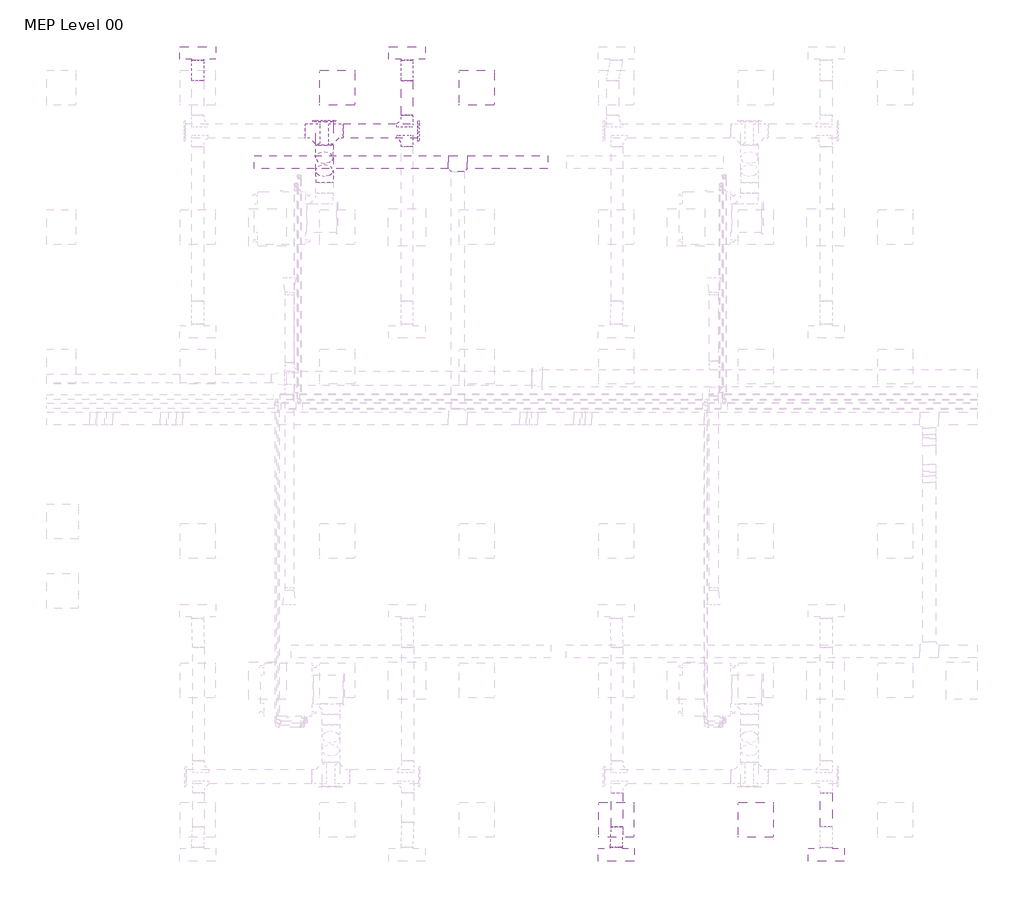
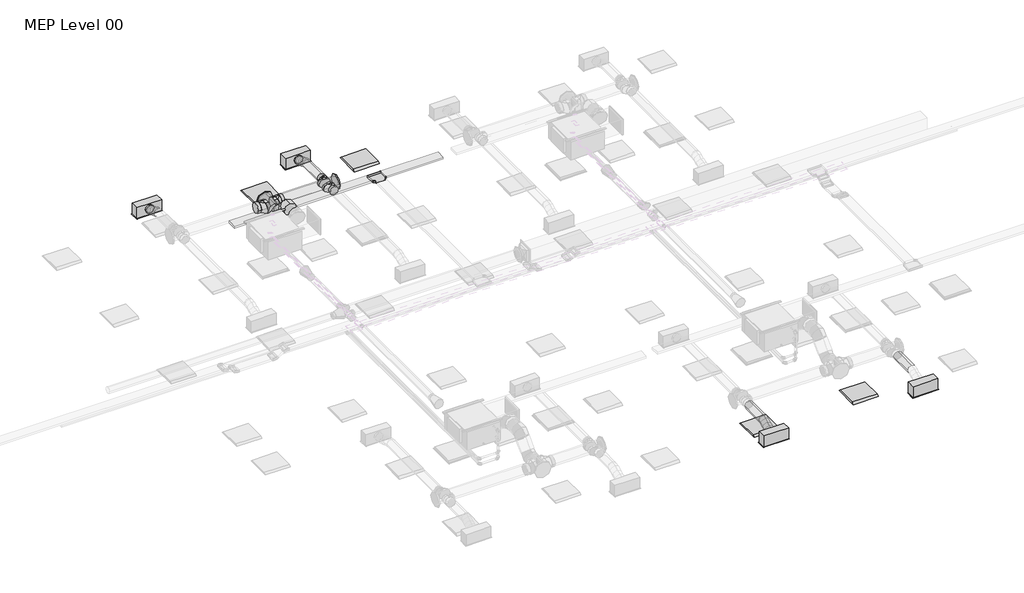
# One storey, part 7 of 33: 9 duct segments, 8 duct fittings, 4 air terminals, 4 light fixtures, 2 cable carrier segments, 1 cable carrier fitting.
"""IFC4 building model written with IfcOpenShell, lengths in millimetres."""

from ifc_helpers import new_model, si_unit, point, frame, frame_2d, origin, place, context, project, spatial, polyline, circle_curve, ellipse_curve, trimmed, segment, composite_curve, outline, extrude, transform, mapped, element, save
from ifc_brep_helpers import plane_surface, cylinder_surface, advanced_brep
from components import supply_diffuser_with_plenum_linear_slot_hosted_8c379eed, cable_tray_horizontal_tee_standard_d76b5e15, dw144_round_blank_end_standard_e3d0b58b, dw144_round_blank_end_standard_8c6f93a0, dw144_round_segmented_bend_slip_joint_standard_2e4ef361, dw144_round_shoe_branch_slip_joint_standard_0dbb398a, dw144_round_shoe_branch_slip_joint_standard_15a2edd8, light_fixture_600x600_230_1c7c1157

model = new_model("IFC4")

# Units and contexts
model_context = context("Model", 3, world=origin())
ifc_project = project(units=[si_unit("LENGTHUNIT", "METRE", prefix="MILLI")], contexts=[model_context])

# Site, building, storey
site = spatial("IfcSite", under=ifc_project)
building = spatial("IfcBuilding", under=site)
storey = spatial("IfcBuildingStorey", under=building, Name="MEP Level 00", Elevation=0.0)

# Air terminals
placement = place(None, origin())
supply_diffuser_with_plenum_linear_slot_hosted_shape = supply_diffuser_with_plenum_linear_slot_hosted_8c379eed(model_context)
element("IfcAirTerminal", 1, ObjectType="Supply Diffuser with Plenum - Linear Slot - Hosted : 600mmx193.8mm-200 In Inlet  4-Slot", at=placement, inside=storey, context=model_context, shape_type="MappedRepresentation", body=[
    mapped(supply_diffuser_with_plenum_linear_slot_hosted_shape, transform((16362.2000027, 963.2000004, 2800.0), x_axis=(1.0, 0.0, 0.0), y_axis=(0.0, -1.0, 0.0), z_axis=(0.0, 0.0, -1.0))),
])
element("IfcAirTerminal", 2, ObjectType="Supply Diffuser with Plenum - Linear Slot - Hosted : 600mmx193.8mm-200 In Inlet  4-Slot", at=placement, inside=storey, context=model_context, shape_type="MappedRepresentation", body=[
    mapped(supply_diffuser_with_plenum_linear_slot_hosted_shape, transform((19973.9000022, 963.2000004, 2800.0), x_axis=(1.0, 0.0, 0.0), y_axis=(0.0, -1.0, 0.0), z_axis=(0.0, 0.0, -1.0))),
])
element("IfcAirTerminal", 3, ObjectType="Supply Diffuser with Plenum - Linear Slot - Hosted : 600mmx193.8mm-200 In Inlet  4-Slot", at=placement, inside=storey, context=model_context, shape_type="MappedRepresentation", body=[
    mapped(supply_diffuser_with_plenum_linear_slot_hosted_shape, transform((9162.2000027, 14763.2000004, 2800.0), x_axis=(-1.0, 0.0, 0.0), y_axis=(0.0, 1.0, 0.0), z_axis=(0.0, 0.0, -1.0))),
])
element("IfcAirTerminal", 4, ObjectType="Supply Diffuser with Plenum - Linear Slot - Hosted : 600mmx193.8mm-200 In Inlet  4-Slot", at=placement, inside=storey, context=model_context, shape_type="MappedRepresentation", body=[
    mapped(supply_diffuser_with_plenum_linear_slot_hosted_shape, transform((12762.2000027, 14763.2000004, 2800.0), x_axis=(-1.0, 0.0, 0.0), y_axis=(0.0, 1.0, 0.0), z_axis=(0.0, 0.0, -1.0))),
])

# Cable carrier fitting
cable_tray_horizontal_tee_standard_shape = cable_tray_horizontal_tee_standard_d76b5e15(model_context)
element("IfcCableCarrierFitting", 5, ObjectType="Cable Tray Horizontal Tee : Standard", at=placement, inside=storey, context=model_context, shape_type="MappedRepresentation", body=[
    mapped(cable_tray_horizontal_tee_standard_shape, transform((13637.1604219, 12884.9103775, 3275.0), x_axis=(1.0, 0.0, 0.0), y_axis=(0.0, 1.0, 0.0), z_axis=(0.0, 0.0, 1.0))),
])

# Cable carrier segments
element("IfcCableCarrierSegment", 6, ObjectType="Perforated Cable Tray", at=placement, inside=storey, context=model_context, shape_type="SweptSolid", body=[
    extrude(outline(polyline([(13474.6604219, 12997.4103775), (13474.6604219, 12772.4103775), (10137.1604219, 12772.4103775), (10137.1604219, 12997.4103775), (13474.6604219, 12997.4103775)])), frame((0.0, 0.0, 3250.0), z_axis=(0.0, 0.0, 1.0), x_axis=(1.0, 0.0, 0.0)), (0.0, 0.0, 1.0), 50.0),
])
element("IfcCableCarrierSegment", 7, ObjectType="Perforated Cable Tray", at=placement, inside=storey, context=model_context, shape_type="SweptSolid", body=[
    extrude(outline(polyline([(13799.6604219, 12772.4103775), (13799.6604219, 12997.4103775), (15186.6514471, 12997.4103775), (15186.6514471, 12772.4103775), (13799.6604219, 12772.4103775)])), frame((0.0, 0.0, 3250.0), z_axis=(0.0, 0.0, 1.0), x_axis=(1.0, 0.0, 0.0)), (0.0, 0.0, 1.0), 50.0),
])

# Duct fittings
dw144_round_blank_end_standard_shape = dw144_round_blank_end_standard_e3d0b58b(model_context)
element("IfcDuctFitting", 8, ObjectType="DW144 Round Blank End : Standard", at=placement, inside=storey, context=model_context, shape_type="MappedRepresentation", body=[
    mapped(dw144_round_blank_end_standard_shape, transform((12949.7561029, 13419.8981817, 3072.2088531), x_axis=(1.0, 0.0, 0.0), y_axis=(0.0, 1.0, 0.0), z_axis=(0.0, 0.0, 1.0))),
])
dw144_round_blank_end_standard_2_shape = dw144_round_blank_end_standard_8c6f93a0(model_context)
element("IfcDuctFitting", 9, ObjectType="DW144 Round Blank End : Standard", at=placement, inside=storey, context=model_context, shape_type="MappedRepresentation", body=[
    mapped(dw144_round_blank_end_standard_2_shape, transform((11339.7561029, 13583.4083881, 3072.2088531), x_axis=(0.0, 1.0, 0.0), y_axis=(-1.0, 0.0, 0.0), z_axis=(0.0, 0.0, 1.0))),
])
dw144_round_segmented_bend_slip_joint_standard_shape = dw144_round_segmented_bend_slip_joint_standard_2e4ef361(model_context)
element("IfcDuctFitting", 10, ObjectType="DW144 Round Segmented Bend - Slip Joint : Standard", at=placement, inside=storey, context=model_context, shape_type="MappedRepresentation", body=[
    mapped(dw144_round_segmented_bend_slip_joint_standard_shape, transform((11339.7561029, 13047.7661473, 3072.2088531), x_axis=(0.0, 0.7071067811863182, -0.7071067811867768), y_axis=(0.0, 0.7071067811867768, 0.7071067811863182), z_axis=(1.0, 0.0, 0.0))),
])
element("IfcDuctFitting", 11, ObjectType="DW144 Round Segmented Bend - Slip Joint : Standard", at=placement, inside=storey, context=model_context, shape_type="MappedRepresentation", body=[
    mapped(dw144_round_segmented_bend_slip_joint_standard_shape, transform((11339.7561029, 12650.4000004, 3469.575), x_axis=(0.0, 1.0, 0.0), y_axis=(0.0, 0.0, -1.0), z_axis=(-1.0, 0.0, 0.0))),
])
dw144_round_shoe_branch_slip_joint_standard_shape = dw144_round_shoe_branch_slip_joint_standard_0dbb398a(model_context)
element("IfcDuctFitting", 12, ObjectType="DW144 Round Shoe Branch - Slip Joint : Standard", at=placement, inside=storey, context=model_context, shape_type="MappedRepresentation", body=[
    mapped(dw144_round_shoe_branch_slip_joint_standard_shape, transform((11489.7561029, 13419.8981817, 3072.2088531), x_axis=(1.0, 0.0, 0.0), y_axis=(0.0, -1.0, 0.0), z_axis=(0.0, 0.0, -1.0))),
])
element("IfcDuctFitting", 13, ObjectType="DW144 Round Shoe Branch - Slip Joint : Standard", at=placement, inside=storey, context=model_context, shape_type="MappedRepresentation", body=[
    mapped(dw144_round_shoe_branch_slip_joint_standard_shape, transform((11189.7561029, 13419.8981817, 3072.2088531), x_axis=(-1.0, 0.0, 0.0), y_axis=(0.0, -1.0, 0.0), z_axis=(0.0, 0.0, 1.0))),
])
dw144_round_shoe_branch_slip_joint_standard_2_shape = dw144_round_shoe_branch_slip_joint_standard_15a2edd8(model_context)
element("IfcDuctFitting", 14, ObjectType="DW144 Round Shoe Branch - Slip Joint : Standard", at=placement, inside=storey, context=model_context, shape_type="MappedRepresentation", body=[
    mapped(dw144_round_shoe_branch_slip_joint_standard_2_shape, transform((12762.2000027, 13544.8981817, 3072.2088531), x_axis=(0.0, 1.0, 0.0), y_axis=(1.0, 0.0, 0.0), z_axis=(0.0, 0.0, -1.0))),
])
element("IfcDuctFitting", 15, ObjectType="DW144 Round Shoe Branch - Slip Joint : Standard", at=placement, inside=storey, context=model_context, shape_type="MappedRepresentation", body=[
    mapped(dw144_round_shoe_branch_slip_joint_standard_2_shape, transform((12762.2000027, 13294.8981817, 3072.2088531), x_axis=(0.0, -1.0, 0.0), y_axis=(1.0, 0.0, 0.0), z_axis=(0.0, 0.0, 1.0))),
])

# Duct segments
element("IfcDuctSegment", 16, ObjectType="DW144 Segmented Bend / Shoe Branch", at=placement, inside=storey, context=model_context, shape_type="SweptSolid", body=[
    extrude(outline(composite_curve([segment(trimmed(circle_curve(frame_2d((3072.2088531, 11339.7561029)), 150.0), [point((3072.2088531, 11489.7561029))], [point((3222.2088531, 11339.7561029))], False, "CARTESIAN"), True, "CONTINUOUS"), segment(trimmed(circle_curve(frame_2d((3072.2088531, 11339.7561029)), 150.0), [point((3222.2088531, 11339.7561029))], [point((3072.2088531, 11189.7561029))], False, "CARTESIAN"), True, "CONTINUOUS"), segment(trimmed(circle_curve(frame_2d((3072.2088531, 11339.7561029)), 150.0), [point((3072.2088531, 11189.7561029))], [point((2922.2088531, 11339.7561029))], False, "CARTESIAN"), True, "CONTINUOUS"), segment(trimmed(circle_curve(frame_2d((3072.2088531, 11339.7561029)), 150.0), [point((2922.2088531, 11339.7561029))], [point((3072.2088531, 11489.7561029))], False, "CARTESIAN"), True, "CONTINUOUS")], self_intersect=False)), frame((0.0, 13172.030216, 0.0), z_axis=(0.0, 1.0, 0.0), x_axis=(0.0, 0.0, 1.0)), (0.0, 0.0, 1.0), 411.3781721),
])
element("IfcDuctSegment", 17, ObjectType="DW144 Segmented Bend / Shoe Branch", at=placement, inside=storey, context=model_context, shape_type="SweptSolid", body=[
    extrude(outline(composite_curve([segment(trimmed(circle_curve(frame_2d((0.0, -149.9999999)), 150.0), [point((150.0, -149.9999999))], [point((0.0, -299.9999999))], False, "CARTESIAN"), True, "CONTINUOUS"), segment(trimmed(circle_curve(frame_2d((0.0, -149.9999999)), 150.0), [point((0.0, -299.9999999))], [point((-150.0, -149.9999999))], False, "CARTESIAN"), True, "CONTINUOUS"), segment(trimmed(circle_curve(frame_2d((0.0, -149.9999999)), 150.0), [point((-150.0, -149.9999999))], [point((0.0, 0.0))], False, "CARTESIAN"), True, "CONTINUOUS"), segment(trimmed(circle_curve(frame_2d((0.0, -149.9999999)), 150.0), [point((0.0, 0.0))], [point((150.0, -149.9999999))], False, "CARTESIAN"), True, "CONTINUOUS")], self_intersect=False)), frame((11339.7561029, 13065.9641988, 3266.1428359), z_axis=(0.0, -0.7071067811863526, 0.7071067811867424), x_axis=(1.0, 0.0, 0.0)), (0.0, 0.0, 1.0), 313.4324567),
])
element("IfcDuctSegment", 18, ObjectType="DW144 Segmented Bend / Shoe Branch", at=placement, inside=storey, context=model_context, shape_type="SweptSolid", body=[
    extrude(outline(composite_curve([segment(trimmed(circle_curve(frame_2d((13419.8981817, 3072.2088531)), 125.0), [point((13294.8981817, 3072.2088531))], [point((13419.8981817, 3197.2088531))], False, "CARTESIAN"), True, "CONTINUOUS"), segment(trimmed(circle_curve(frame_2d((13419.8981817, 3072.2088531)), 125.0), [point((13419.8981817, 3197.2088531))], [point((13544.8981817, 3072.2088531))], False, "CARTESIAN"), True, "CONTINUOUS"), segment(trimmed(circle_curve(frame_2d((13419.8981817, 3072.2088531)), 125.0), [point((13544.8981817, 3072.2088531))], [point((13419.8981817, 2947.2088531))], False, "CARTESIAN"), True, "CONTINUOUS"), segment(trimmed(circle_curve(frame_2d((13419.8981817, 3072.2088531)), 125.0), [point((13419.8981817, 2947.2088531))], [point((13294.8981817, 3072.2088531))], False, "CARTESIAN"), True, "CONTINUOUS")], self_intersect=False)), frame((11664.7561029, 0.0, 0.0), z_axis=(1.0, 0.0, 0.0), x_axis=(0.0, 1.0, 0.0)), (0.0, 0.0, 1.0), 1285.0),
])
element("IfcDuctSegment", 19, ObjectType="DW144 Segmented Bend / Shoe Branch", at=placement, inside=storey, context=model_context, shape_type="SweptSolid", body=[
    extrude(outline(composite_curve([segment(trimmed(circle_curve(frame_2d((3072.2088531, 12762.2000027)), 100.0), [point((3072.2088531, 12862.2000027))], [point((3172.2088531, 12762.2000027))], False, "CARTESIAN"), True, "CONTINUOUS"), segment(trimmed(circle_curve(frame_2d((3072.2088531, 12762.2000027)), 100.0), [point((3172.2088531, 12762.2000027))], [point((3072.2088531, 12662.2000027))], False, "CARTESIAN"), True, "CONTINUOUS"), segment(trimmed(circle_curve(frame_2d((3072.2088531, 12762.2000027)), 100.0), [point((3072.2088531, 12662.2000027))], [point((2972.2088531, 12762.2000027))], False, "CARTESIAN"), True, "CONTINUOUS"), segment(trimmed(circle_curve(frame_2d((3072.2088531, 12762.2000027)), 100.0), [point((2972.2088531, 12762.2000027))], [point((3072.2088531, 12862.2000027))], False, "CARTESIAN"), True, "CONTINUOUS")], self_intersect=False)), frame((0.0, 13694.8981817, 0.0), z_axis=(0.0, 1.0, 0.0), x_axis=(0.0, 0.0, 1.0)), (0.0, 0.0, 1.0), 590.0),
])
element("IfcDuctSegment", 20, ObjectType="DW144 Segmented Bend / Shoe Branch", at=placement, inside=storey, context=model_context, shape_type="SweptSolid", body=[
    extrude(outline(composite_curve([segment(trimmed(circle_curve(frame_2d((3072.2088531, 19973.9000022)), 100.0), [point((3072.2088531, 19873.9000022))], [point((2972.2088531, 19973.9000022))], False, "CARTESIAN"), True, "CONTINUOUS"), segment(trimmed(circle_curve(frame_2d((3072.2088531, 19973.9000022)), 100.0), [point((2972.2088531, 19973.9000022))], [point((3072.2088531, 20073.9000022))], False, "CARTESIAN"), True, "CONTINUOUS"), segment(trimmed(circle_curve(frame_2d((3072.2088531, 19973.9000022)), 100.0), [point((3072.2088531, 20073.9000022))], [point((3172.2088531, 19973.9000022))], False, "CARTESIAN"), True, "CONTINUOUS"), segment(trimmed(circle_curve(frame_2d((3072.2088531, 19973.9000022)), 100.0), [point((3172.2088531, 19973.9000022))], [point((3072.2088531, 19873.9000022))], False, "CARTESIAN"), True, "CONTINUOUS")], self_intersect=False)), frame((0.0, 1441.5018192, 0.0), z_axis=(0.0, 1.0, 0.0), x_axis=(0.0, 0.0, 1.0)), (0.0, 0.0, 1.0), 590.0),
])
element("IfcDuctSegment", 21, ObjectType="DW144 Segmented Bend / Shoe Branch", at=placement, inside=storey, context=model_context, shape_type="SweptSolid", body=[
    extrude(outline(composite_curve([segment(trimmed(circle_curve(frame_2d((3072.2088531, 16373.9000022)), 100.0), [point((3072.2088531, 16473.9000022))], [point((3172.2088531, 16373.9000022))], False, "CARTESIAN"), True, "CONTINUOUS"), segment(trimmed(circle_curve(frame_2d((3072.2088531, 16373.9000022)), 100.0), [point((3172.2088531, 16373.9000022))], [point((3072.2088531, 16273.9000022))], False, "CARTESIAN"), True, "CONTINUOUS"), segment(trimmed(circle_curve(frame_2d((3072.2088531, 16373.9000022)), 100.0), [point((3072.2088531, 16273.9000022))], [point((2972.2088531, 16373.9000022))], False, "CARTESIAN"), True, "CONTINUOUS"), segment(trimmed(circle_curve(frame_2d((3072.2088531, 16373.9000022)), 100.0), [point((2972.2088531, 16373.9000022))], [point((3072.2088531, 16473.9000022))], False, "CARTESIAN"), True, "CONTINUOUS")], self_intersect=False)), frame((0.0, 1441.5018192, 0.0), z_axis=(0.0, 1.0, 0.0), x_axis=(0.0, 0.0, 1.0)), (0.0, 0.0, 1.0), 590.0),
])
element("IfcDuctSegment", 22, ObjectType="Flex - Round", at=placement, inside=storey, context=model_context, shape_type="AdvancedBrep", body=[
    advanced_brep(
    [(12662.2000027, 14284.8981817, 3072.2088531), (12762.2000027, 14284.8981817, 2972.2088531), (12862.2000027, 14284.8981817, 3072.2088531), (12762.2000027, 14284.8981817, 3172.2088531), (12662.2000027, 14305.1168804, 3072.2088531), (12762.2000027, 14291.9969011, 2972.2088531), (12862.2000027, 14305.1168804, 3072.2088531), (12762.2000027, 14318.2368598, 3172.2088531), (12662.2000027, 14634.3000004, 2954.4), (12762.2000027, 14634.3000004, 3054.4), (12862.2000027, 14634.3000004, 2954.4), (12762.2000027, 14634.3000004, 2854.4), (12662.2000027, 14374.0604937, 3053.8012198), (12762.2000027, 14339.4842635, 2959.5299419), (12862.2000027, 14374.0604937, 3053.8012198), (12762.2000027, 14408.6367238, 3148.0724978), (12662.2000027, 14459.599091, 3013.3044266), (12762.2000027, 14416.809003, 2922.9218599), (12862.2000027, 14459.599091, 3013.3044266), (12762.2000027, 14502.3891791, 3103.6869932), (12662.2000027, 14545.1376884, 2972.8076333), (12762.2000027, 14510.5614583, 2878.5363553), (12862.2000027, 14545.1376884, 2972.8076333), (12762.2000027, 14579.7139186, 3067.0789113), (12662.2000027, 14614.0813017, 2954.4), (12762.2000027, 14600.9613223, 2854.4), (12862.2000027, 14614.0813017, 2954.4), (12762.2000027, 14627.201281, 3054.4)],
    [
        (0, 1, circle_curve(frame((12762.2000027, 14284.8981817, 3072.2088531), z_axis=(0.0, -1.0, 0.0), x_axis=(-1.0, 0.0, 0.0)), 100.0)),
        (1, 2, circle_curve(frame((12762.2000027, 14284.8981817, 3072.2088531), z_axis=(0.0, -1.0, 0.0), x_axis=(-1.0, 0.0, 0.0)), 100.0)),
        (2, 3, circle_curve(frame((12762.2000027, 14284.8981817, 3072.2088531), z_axis=(0.0, -1.0, 0.0), x_axis=(-1.0, 0.0, 0.0)), 100.0)),
        (3, 0, circle_curve(frame((12762.2000027, 14284.8981817, 3072.2088531), z_axis=(0.0, -1.0, 0.0), x_axis=(-1.0, 0.0, 0.0)), 100.0)),
        (0, 4),
        (4, 5, ellipse_curve(frame((12762.2000027, 14305.1168804, 3072.2088531), z_axis=(0.0, -0.9915028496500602, 0.1300849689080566), x_axis=(0.0, -0.13008496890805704, -0.9915028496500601)), 100.8569971, 100.0)),
        (5, 1),
        (5, 6, ellipse_curve(frame((12762.2000027, 14305.1168804, 3072.2088531), z_axis=(0.0, -0.9915028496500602, 0.1300849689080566), x_axis=(0.0, -0.13008496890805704, -0.9915028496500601)), 100.8569971, 100.0)),
        (6, 2),
        (6, 7, ellipse_curve(frame((12762.2000027, 14305.1168804, 3072.2088531), z_axis=(0.0, -0.9915028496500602, 0.1300849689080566), x_axis=(0.0, -0.13008496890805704, -0.9915028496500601)), 100.8569971, 100.0)),
        (7, 3),
        (7, 4, ellipse_curve(frame((12762.2000027, 14305.1168804, 3072.2088531), z_axis=(0.0, -0.9915028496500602, 0.1300849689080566), x_axis=(0.0, -0.13008496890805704, -0.9915028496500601)), 100.8569971, 100.0)),
        (8, 9, circle_curve(frame((12762.2000027, 14634.3000004, 2954.4), z_axis=(0.0, 1.0, 0.0), x_axis=(-1.0, 0.0, 0.0)), 100.0)),
        (9, 10, circle_curve(frame((12762.2000027, 14634.3000004, 2954.4), z_axis=(0.0, 1.0, 0.0), x_axis=(-1.0, 0.0, 0.0)), 100.0)),
        (10, 11, circle_curve(frame((12762.2000027, 14634.3000004, 2954.4), z_axis=(0.0, 1.0, 0.0), x_axis=(-1.0, 0.0, 0.0)), 100.0)),
        (11, 8, circle_curve(frame((12762.2000027, 14634.3000004, 2954.4), z_axis=(0.0, 1.0, 0.0), x_axis=(-1.0, 0.0, 0.0)), 100.0)),
        (4, 12),
        (12, 13, ellipse_curve(frame((12762.2000027, 14374.0604937, 3053.8012198), z_axis=(0.0, -0.9388438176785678, 0.3443432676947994), x_axis=(0.0, -0.3443432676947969, -0.9388438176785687)), 100.4120986, 100.0)),
        (13, 5),
        (13, 14, ellipse_curve(frame((12762.2000027, 14374.0604937, 3053.8012198), z_axis=(0.0, -0.9388438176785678, 0.3443432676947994), x_axis=(0.0, -0.3443432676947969, -0.9388438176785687)), 100.4120986, 100.0)),
        (14, 6),
        (14, 15, ellipse_curve(frame((12762.2000027, 14374.0604937, 3053.8012198), z_axis=(0.0, -0.9388438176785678, 0.3443432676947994), x_axis=(0.0, -0.3443432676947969, -0.9388438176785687)), 100.4120986, 100.0)),
        (15, 7),
        (15, 12, ellipse_curve(frame((12762.2000027, 14374.0604937, 3053.8012198), z_axis=(0.0, -0.9388438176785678, 0.3443432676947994), x_axis=(0.0, -0.3443432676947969, -0.9388438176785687)), 100.4120986, 100.0)),
        (12, 16),
        (16, 17, circle_curve(frame((12762.2000027, 14459.599091, 3013.3044266), z_axis=(0.0, -0.9038256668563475, 0.42790088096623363), x_axis=(-1.0, 0.0, 0.0)), 100.0)),
        (17, 13),
        (17, 18, circle_curve(frame((12762.2000027, 14459.599091, 3013.3044266), z_axis=(0.0, -0.9038256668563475, 0.42790088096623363), x_axis=(-1.0, 0.0, 0.0)), 100.0)),
        (18, 14),
        (18, 19, circle_curve(frame((12762.2000027, 14459.599091, 3013.3044266), z_axis=(0.0, -0.9038256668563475, 0.42790088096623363), x_axis=(-1.0, 0.0, 0.0)), 100.0)),
        (19, 15),
        (19, 16, circle_curve(frame((12762.2000027, 14459.599091, 3013.3044266), z_axis=(0.0, -0.9038256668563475, 0.42790088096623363), x_axis=(-1.0, 0.0, 0.0)), 100.0)),
        (16, 20),
        (20, 21, ellipse_curve(frame((12762.2000027, 14545.1376884, 2972.8076333), z_axis=(0.0, -0.93884381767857, 0.3443432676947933), x_axis=(0.0, 0.34434326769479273, 0.9388438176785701)), 100.4120986, 100.0)),
        (21, 17),
        (21, 22, ellipse_curve(frame((12762.2000027, 14545.1376884, 2972.8076333), z_axis=(0.0, -0.93884381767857, 0.3443432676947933), x_axis=(0.0, 0.34434326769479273, 0.9388438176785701)), 100.4120986, 100.0)),
        (22, 18),
        (22, 23, ellipse_curve(frame((12762.2000027, 14545.1376884, 2972.8076333), z_axis=(0.0, -0.93884381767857, 0.3443432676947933), x_axis=(0.0, 0.34434326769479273, 0.9388438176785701)), 100.4120986, 100.0)),
        (23, 19),
        (23, 20, ellipse_curve(frame((12762.2000027, 14545.1376884, 2972.8076333), z_axis=(0.0, -0.93884381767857, 0.3443432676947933), x_axis=(0.0, 0.34434326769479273, 0.9388438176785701)), 100.4120986, 100.0)),
        (20, 24),
        (24, 25, ellipse_curve(frame((12762.2000027, 14614.0813017, 2954.4), z_axis=(0.0, -0.9915028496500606, 0.13008496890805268), x_axis=(0.0, 0.13008496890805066, 0.991502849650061)), 100.8569971, 100.0)),
        (25, 21),
        (25, 26, ellipse_curve(frame((12762.2000027, 14614.0813017, 2954.4), z_axis=(0.0, -0.9915028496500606, 0.13008496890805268), x_axis=(0.0, 0.13008496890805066, 0.991502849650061)), 100.8569971, 100.0)),
        (26, 22),
        (26, 27, ellipse_curve(frame((12762.2000027, 14614.0813017, 2954.4), z_axis=(0.0, -0.9915028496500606, 0.13008496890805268), x_axis=(0.0, 0.13008496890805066, 0.991502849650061)), 100.8569971, 100.0)),
        (27, 23),
        (27, 24, ellipse_curve(frame((12762.2000027, 14614.0813017, 2954.4), z_axis=(0.0, -0.9915028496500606, 0.13008496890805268), x_axis=(0.0, 0.13008496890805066, 0.991502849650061)), 100.8569971, 100.0)),
        (24, 8),
        (11, 25),
        (10, 26),
        (9, 27),
    ],
    [
        plane_surface(frame((12662.2000027, 14284.8981817, 3072.2088531), z_axis=(0.0, -1.0, 0.0), x_axis=(0.0, 0.0, 1.0))),
        cylinder_surface(frame((12762.2000027, 14284.8981817, 3072.2088531), z_axis=(0.0, -1.0, 0.0), x_axis=(-1.0, 0.0, 0.0)), 100.0),
        plane_surface(frame((12662.2000027, 14634.3000004, 2954.4), z_axis=(0.0, 1.0, 0.0), x_axis=(0.0, 0.0, 1.0))),
        cylinder_surface(frame((12762.2000027, 14305.1168804, 3072.2088531), z_axis=(0.0, -0.9661558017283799, 0.2579592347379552), x_axis=(-1.0, 0.0, 0.0)), 100.0),
        cylinder_surface(frame((12762.2000027, 14374.0604937, 3053.8012198), z_axis=(0.0, -0.9038256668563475, 0.42790088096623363), x_axis=(-1.0, 0.0, 0.0)), 100.0),
        cylinder_surface(frame((12762.2000027, 14459.599091, 3013.3044266), z_axis=(0.0, -0.9038256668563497, 0.427900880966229), x_axis=(-1.0, 0.0, 0.0)), 100.0),
        cylinder_surface(frame((12762.2000027, 14545.1376884, 2972.8076333), z_axis=(0.0, -0.966155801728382, 0.25795923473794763), x_axis=(-1.0, 0.0, 0.0)), 100.0),
        cylinder_surface(frame((12762.2000027, 14614.0813017, 2954.4), z_axis=(0.0, -1.0, 0.0), x_axis=(-1.0, 0.0, 0.0)), 100.0),
    ],
    [
        (0, [[1, 2, 3, 4]]),
        (1, [[-1, 5, 6, 7]]),
        (1, [[-2, -7, 8, 9]]),
        (1, [[-3, -9, 10, 11]]),
        (1, [[-4, -11, 12, -5]]),
        (2, [[13, 14, 15, 16]]),
        (3, [[-6, 17, 18, 19]]),
        (3, [[-8, -19, 20, 21]]),
        (3, [[-10, -21, 22, 23]]),
        (3, [[-12, -23, 24, -17]]),
        (4, [[-18, 25, 26, 27]]),
        (4, [[-20, -27, 28, 29]]),
        (4, [[-22, -29, 30, 31]]),
        (4, [[-24, -31, 32, -25]]),
        (5, [[-26, 33, 34, 35]]),
        (5, [[-28, -35, 36, 37]]),
        (5, [[-30, -37, 38, 39]]),
        (5, [[-32, -39, 40, -33]]),
        (6, [[-34, 41, 42, 43]]),
        (6, [[-36, -43, 44, 45]]),
        (6, [[-38, -45, 46, 47]]),
        (6, [[-40, -47, 48, -41]]),
        (7, [[-42, 49, -16, 50]]),
        (7, [[-44, -50, -15, 51]]),
        (7, [[-46, -51, -14, 52]]),
        (7, [[-48, -52, -13, -49]]),
    ],
),
])
element("IfcDuctSegment", 23, ObjectType="Flex - Round", at=placement, inside=storey, context=model_context, shape_type="AdvancedBrep", body=[
    advanced_brep(
    [(9062.2000027, 14284.8981817, 3072.2088531), (9162.2000027, 14284.8981817, 2972.2088531), (9262.2000027, 14284.8981817, 3072.2088531), (9162.2000027, 14284.8981817, 3172.2088531), (9062.2000027, 14305.1168804, 3072.2088531), (9162.2000027, 14291.9969011, 2972.2088531), (9262.2000027, 14305.1168804, 3072.2088531), (9162.2000027, 14318.2368598, 3172.2088531), (9062.2000027, 14634.3000004, 2954.4), (9162.2000027, 14634.3000004, 3054.4), (9262.2000027, 14634.3000004, 2954.4), (9162.2000027, 14634.3000004, 2854.4), (9062.2000027, 14374.0604937, 3053.8012198), (9162.2000027, 14339.4842635, 2959.5299419), (9262.2000027, 14374.0604937, 3053.8012198), (9162.2000027, 14408.6367238, 3148.0724978), (9062.2000027, 14459.599091, 3013.3044266), (9162.2000027, 14416.809003, 2922.9218599), (9262.2000027, 14459.599091, 3013.3044266), (9162.2000027, 14502.3891791, 3103.6869932), (9062.2000027, 14545.1376884, 2972.8076333), (9162.2000027, 14510.5614583, 2878.5363553), (9262.2000027, 14545.1376884, 2972.8076333), (9162.2000027, 14579.7139186, 3067.0789113), (9062.2000027, 14614.0813017, 2954.4), (9162.2000027, 14600.9613223, 2854.4), (9262.2000027, 14614.0813017, 2954.4), (9162.2000027, 14627.201281, 3054.4)],
    [
        (0, 1, circle_curve(frame((9162.2000027, 14284.8981817, 3072.2088531), z_axis=(0.0, -1.0, 0.0), x_axis=(-1.0, 0.0, 0.0)), 100.0)),
        (1, 2, circle_curve(frame((9162.2000027, 14284.8981817, 3072.2088531), z_axis=(0.0, -1.0, 0.0), x_axis=(-1.0, 0.0, 0.0)), 100.0)),
        (2, 3, circle_curve(frame((9162.2000027, 14284.8981817, 3072.2088531), z_axis=(0.0, -1.0, 0.0), x_axis=(-1.0, 0.0, 0.0)), 100.0)),
        (3, 0, circle_curve(frame((9162.2000027, 14284.8981817, 3072.2088531), z_axis=(0.0, -1.0, 0.0), x_axis=(-1.0, 0.0, 0.0)), 100.0)),
        (0, 4),
        (4, 5, ellipse_curve(frame((9162.2000027, 14305.1168804, 3072.2088531), z_axis=(0.0, -0.9915028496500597, 0.13008496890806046), x_axis=(0.0, -0.13008496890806, -0.9915028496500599)), 100.8569971, 100.0)),
        (5, 1),
        (5, 6, ellipse_curve(frame((9162.2000027, 14305.1168804, 3072.2088531), z_axis=(0.0, -0.9915028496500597, 0.13008496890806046), x_axis=(0.0, -0.13008496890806, -0.9915028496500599)), 100.8569971, 100.0)),
        (6, 2),
        (6, 7, ellipse_curve(frame((9162.2000027, 14305.1168804, 3072.2088531), z_axis=(0.0, -0.9915028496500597, 0.13008496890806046), x_axis=(0.0, -0.13008496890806, -0.9915028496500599)), 100.8569971, 100.0)),
        (7, 3),
        (7, 4, ellipse_curve(frame((9162.2000027, 14305.1168804, 3072.2088531), z_axis=(0.0, -0.9915028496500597, 0.13008496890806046), x_axis=(0.0, -0.13008496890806, -0.9915028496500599)), 100.8569971, 100.0)),
        (8, 9, circle_curve(frame((9162.2000027, 14634.3000004, 2954.4), z_axis=(0.0, 1.0, 0.0), x_axis=(-1.0, 0.0, 0.0)), 100.0)),
        (9, 10, circle_curve(frame((9162.2000027, 14634.3000004, 2954.4), z_axis=(0.0, 1.0, 0.0), x_axis=(-1.0, 0.0, 0.0)), 100.0)),
        (10, 11, circle_curve(frame((9162.2000027, 14634.3000004, 2954.4), z_axis=(0.0, 1.0, 0.0), x_axis=(-1.0, 0.0, 0.0)), 100.0)),
        (11, 8, circle_curve(frame((9162.2000027, 14634.3000004, 2954.4), z_axis=(0.0, 1.0, 0.0), x_axis=(-1.0, 0.0, 0.0)), 100.0)),
        (4, 12),
        (12, 13, ellipse_curve(frame((9162.2000027, 14374.0604937, 3053.8012198), z_axis=(0.0, -0.9388438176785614, 0.3443432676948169), x_axis=(0.0, -0.34434326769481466, -0.9388438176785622)), 100.4120986, 100.0)),
        (13, 5),
        (13, 14, ellipse_curve(frame((9162.2000027, 14374.0604937, 3053.8012198), z_axis=(0.0, -0.9388438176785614, 0.3443432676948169), x_axis=(0.0, -0.34434326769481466, -0.9388438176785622)), 100.4120986, 100.0)),
        (14, 6),
        (14, 15, ellipse_curve(frame((9162.2000027, 14374.0604937, 3053.8012198), z_axis=(0.0, -0.9388438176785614, 0.3443432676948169), x_axis=(0.0, -0.34434326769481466, -0.9388438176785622)), 100.4120986, 100.0)),
        (15, 7),
        (15, 12, ellipse_curve(frame((9162.2000027, 14374.0604937, 3053.8012198), z_axis=(0.0, -0.9388438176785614, 0.3443432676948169), x_axis=(0.0, -0.34434326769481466, -0.9388438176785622)), 100.4120986, 100.0)),
        (12, 16),
        (16, 17, circle_curve(frame((9162.2000027, 14459.599091, 3013.3044266), z_axis=(0.0, -0.9038256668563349, 0.42790088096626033), x_axis=(-1.0, 0.0, 0.0)), 100.0)),
        (17, 13),
        (17, 18, circle_curve(frame((9162.2000027, 14459.599091, 3013.3044266), z_axis=(0.0, -0.9038256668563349, 0.42790088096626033), x_axis=(-1.0, 0.0, 0.0)), 100.0)),
        (18, 14),
        (18, 19, circle_curve(frame((9162.2000027, 14459.599091, 3013.3044266), z_axis=(0.0, -0.9038256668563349, 0.42790088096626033), x_axis=(-1.0, 0.0, 0.0)), 100.0)),
        (19, 15),
        (19, 16, circle_curve(frame((9162.2000027, 14459.599091, 3013.3044266), z_axis=(0.0, -0.9038256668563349, 0.42790088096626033), x_axis=(-1.0, 0.0, 0.0)), 100.0)),
        (16, 20),
        (20, 21, ellipse_curve(frame((9162.2000027, 14545.1376884, 2972.8076333), z_axis=(0.0, -0.9388438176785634, 0.34434326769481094), x_axis=(0.0, 0.34434326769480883, 0.9388438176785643)), 100.4120986, 100.0)),
        (21, 17),
        (21, 22, ellipse_curve(frame((9162.2000027, 14545.1376884, 2972.8076333), z_axis=(0.0, -0.9388438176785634, 0.34434326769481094), x_axis=(0.0, 0.34434326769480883, 0.9388438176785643)), 100.4120986, 100.0)),
        (22, 18),
        (22, 23, ellipse_curve(frame((9162.2000027, 14545.1376884, 2972.8076333), z_axis=(0.0, -0.9388438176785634, 0.34434326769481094), x_axis=(0.0, 0.34434326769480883, 0.9388438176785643)), 100.4120986, 100.0)),
        (23, 19),
        (23, 20, ellipse_curve(frame((9162.2000027, 14545.1376884, 2972.8076333), z_axis=(0.0, -0.9388438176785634, 0.34434326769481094), x_axis=(0.0, 0.34434326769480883, 0.9388438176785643)), 100.4120986, 100.0)),
        (20, 24),
        (24, 25, ellipse_curve(frame((9162.2000027, 14614.0813017, 2954.4), z_axis=(0.0, -0.9915028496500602, 0.1300849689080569), x_axis=(0.0, 0.13008496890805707, 0.9915028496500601)), 100.8569971, 100.0)),
        (25, 21),
        (25, 26, ellipse_curve(frame((9162.2000027, 14614.0813017, 2954.4), z_axis=(0.0, -0.9915028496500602, 0.1300849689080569), x_axis=(0.0, 0.13008496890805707, 0.9915028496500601)), 100.8569971, 100.0)),
        (26, 22),
        (26, 27, ellipse_curve(frame((9162.2000027, 14614.0813017, 2954.4), z_axis=(0.0, -0.9915028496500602, 0.1300849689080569), x_axis=(0.0, 0.13008496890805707, 0.9915028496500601)), 100.8569971, 100.0)),
        (27, 23),
        (27, 24, ellipse_curve(frame((9162.2000027, 14614.0813017, 2954.4), z_axis=(0.0, -0.9915028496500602, 0.1300849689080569), x_axis=(0.0, 0.13008496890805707, 0.9915028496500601)), 100.8569971, 100.0)),
        (24, 8),
        (11, 25),
        (10, 26),
        (9, 27),
    ],
    [
        plane_surface(frame((9062.2000027, 14284.8981817, 3072.2088531), z_axis=(0.0, -1.0, 0.0), x_axis=(0.0, 0.0, 1.0))),
        cylinder_surface(frame((9162.2000027, 14284.8981817, 3072.2088531), z_axis=(0.0, -1.0, 0.0), x_axis=(-1.0, 0.0, 0.0)), 100.0),
        plane_surface(frame((9062.2000027, 14634.3000004, 2954.4), z_axis=(0.0, 1.0, 0.0), x_axis=(0.0, 0.0, 1.0))),
        cylinder_surface(frame((9162.2000027, 14305.1168804, 3072.2088531), z_axis=(0.0, -0.9661558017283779, 0.25795923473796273), x_axis=(-1.0, 0.0, 0.0)), 100.0),
        cylinder_surface(frame((9162.2000027, 14374.0604937, 3053.8012198), z_axis=(0.0, -0.9038256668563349, 0.42790088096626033), x_axis=(-1.0, 0.0, 0.0)), 100.0),
        cylinder_surface(frame((9162.2000027, 14459.599091, 3013.3044266), z_axis=(0.0, -0.9038256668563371, 0.4279008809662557), x_axis=(-1.0, 0.0, 0.0)), 100.0),
        cylinder_surface(frame((9162.2000027, 14545.1376884, 2972.8076333), z_axis=(0.0, -0.9661558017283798, 0.25795923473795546), x_axis=(-1.0, 0.0, 0.0)), 100.0),
        cylinder_surface(frame((9162.2000027, 14614.0813017, 2954.4), z_axis=(0.0, -1.0, 0.0), x_axis=(-1.0, 0.0, 0.0)), 100.0),
    ],
    [
        (0, [[1, 2, 3, 4]]),
        (1, [[-1, 5, 6, 7]]),
        (1, [[-2, -7, 8, 9]]),
        (1, [[-3, -9, 10, 11]]),
        (1, [[-4, -11, 12, -5]]),
        (2, [[13, 14, 15, 16]]),
        (3, [[-6, 17, 18, 19]]),
        (3, [[-8, -19, 20, 21]]),
        (3, [[-10, -21, 22, 23]]),
        (3, [[-12, -23, 24, -17]]),
        (4, [[-18, 25, 26, 27]]),
        (4, [[-20, -27, 28, 29]]),
        (4, [[-22, -29, 30, 31]]),
        (4, [[-24, -31, 32, -25]]),
        (5, [[-26, 33, 34, 35]]),
        (5, [[-28, -35, 36, 37]]),
        (5, [[-30, -37, 38, 39]]),
        (5, [[-32, -39, 40, -33]]),
        (6, [[-34, 41, 42, 43]]),
        (6, [[-36, -43, 44, 45]]),
        (6, [[-38, -45, 46, 47]]),
        (6, [[-40, -47, 48, -41]]),
        (7, [[-42, 49, -16, 50]]),
        (7, [[-44, -50, -15, 51]]),
        (7, [[-46, -51, -14, 52]]),
        (7, [[-48, -52, -13, -49]]),
    ],
),
])
element("IfcDuctSegment", 24, ObjectType="Flex - Round", at=placement, inside=storey, context=model_context, shape_type="AdvancedBrep", body=[
    advanced_brep(
    [(16473.9000022, 1441.5018192, 3072.2088531), (16373.9000022, 1441.5018192, 2972.2088531), (16273.9000022, 1441.5018192, 3072.2088531), (16373.9000022, 1441.5018192, 3172.2088531), (16473.9000022, 1419.9886644, 3072.2088531), (16373.9000022, 1434.4041273, 2972.2088531), (16273.9000022, 1422.5932881, 3072.2088531), (16373.9000022, 1408.1778252, 3172.2088531), (16462.2000027, 1092.1000004, 2954.4), (16362.2000027, 1092.1000004, 3054.4), (16262.2000027, 1092.1000004, 2954.4), (16362.2000027, 1092.1000004, 2854.4), (16472.0154345, 1348.8904029, 3053.2328893), (16372.6402079, 1386.8764181, 2959.5238159), (16272.1283201, 1355.7538157, 3054.3695504), (16371.5035467, 1317.7678004, 3148.0786237), (16467.9552415, 1262.5544078, 3012.3502664), (16369.0041626, 1309.5595036, 2922.9119919), (16268.1447633, 1271.0474118, 3014.2585867), (16367.0958423, 1224.0423161, 3103.6968612), (16463.9716847, 1177.8480039, 2972.2393027), (16364.5964582, 1215.8340192, 2878.5302294), (16264.0845704, 1184.7114168, 2973.3759639), (16363.459797, 1146.7254015, 3067.0850372), (16462.2000027, 1111.0085316, 2954.4), (16362.2000027, 1125.4239944, 2854.4), (16262.2000027, 1113.6131552, 2954.4), (16362.2000027, 1099.1976924, 3054.4)],
    [
        (0, 1, circle_curve(frame((16373.9000022, 1441.5018192, 3072.2088531), z_axis=(0.0, 1.0, 0.0), x_axis=(1.0, 0.0, 0.0)), 100.0)),
        (1, 2, circle_curve(frame((16373.9000022, 1441.5018192, 3072.2088531), z_axis=(0.0, 1.0, 0.0), x_axis=(1.0, 0.0, 0.0)), 100.0)),
        (2, 3, circle_curve(frame((16373.9000022, 1441.5018192, 3072.2088531), z_axis=(0.0, 1.0, 0.0), x_axis=(1.0, 0.0, 0.0)), 100.0)),
        (3, 0, circle_curve(frame((16373.9000022, 1441.5018192, 3072.2088531), z_axis=(0.0, 1.0, 0.0), x_axis=(1.0, 0.0, 0.0)), 100.0)),
        (0, 4),
        (4, 5, ellipse_curve(frame((16373.9000022, 1421.2909763, 3072.2088531), z_axis=(0.012911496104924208, 0.9914289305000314, 0.1300075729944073), x_axis=(-0.09798018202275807, 0.130647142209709, -0.9865754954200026)), 100.8645168, 100.0)),
        (5, 1),
        (5, 6, ellipse_curve(frame((16373.9000022, 1421.2909763, 3072.2088531), z_axis=(0.012911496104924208, 0.9914289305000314, 0.1300075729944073), x_axis=(-0.09798018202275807, 0.130647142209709, -0.9865754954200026)), 100.8645168, 100.0)),
        (6, 2),
        (6, 7, ellipse_curve(frame((16373.9000022, 1421.2909763, 3072.2088531), z_axis=(0.012911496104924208, 0.9914289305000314, 0.1300075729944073), x_axis=(-0.09798018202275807, 0.130647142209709, -0.9865754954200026)), 100.8645168, 100.0)),
        (7, 3),
        (7, 4, ellipse_curve(frame((16373.9000022, 1421.2909763, 3072.2088531), z_axis=(0.012911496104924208, 0.9914289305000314, 0.1300075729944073), x_axis=(-0.09798018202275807, 0.130647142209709, -0.9865754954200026)), 100.8645168, 100.0)),
        (8, 9, circle_curve(frame((16362.2000027, 1092.1000004, 2954.4), z_axis=(0.0, -1.0, 0.0), x_axis=(1.0, 0.0, 0.0)), 100.0)),
        (9, 10, circle_curve(frame((16362.2000027, 1092.1000004, 2954.4), z_axis=(0.0, -1.0, 0.0), x_axis=(1.0, 0.0, 0.0)), 100.0)),
        (10, 11, circle_curve(frame((16362.2000027, 1092.1000004, 2954.4), z_axis=(0.0, -1.0, 0.0), x_axis=(1.0, 0.0, 0.0)), 100.0)),
        (11, 8, circle_curve(frame((16362.2000027, 1092.1000004, 2954.4), z_axis=(0.0, -1.0, 0.0), x_axis=(1.0, 0.0, 0.0)), 100.0)),
        (4, 12),
        (12, 13, ellipse_curve(frame((16372.0718773, 1352.3221093, 3053.8012198), z_axis=(0.03417490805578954, 0.9383065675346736, 0.3441116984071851), x_axis=(-0.09273024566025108, 0.34580454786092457, -0.933713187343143)), 100.4159667, 100.0)),
        (13, 5),
        (13, 14, ellipse_curve(frame((16372.0718773, 1352.3221093, 3053.8012198), z_axis=(0.03417490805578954, 0.9383065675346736, 0.3441116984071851), x_axis=(-0.09273024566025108, 0.34580454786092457, -0.933713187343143)), 100.4159667, 100.0)),
        (14, 6),
        (14, 15, ellipse_curve(frame((16372.0718773, 1352.3221093, 3053.8012198), z_axis=(0.03417490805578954, 0.9383065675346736, 0.3441116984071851), x_axis=(-0.09273024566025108, 0.34580454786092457, -0.933713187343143)), 100.4159667, 100.0)),
        (15, 7),
        (15, 12, ellipse_curve(frame((16372.0718773, 1352.3221093, 3053.8012198), z_axis=(0.03417490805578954, 0.9383065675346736, 0.3441116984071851), x_axis=(-0.09273024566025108, 0.34580454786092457, -0.933713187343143)), 100.4159667, 100.0)),
        (12, 16),
        (16, 17, circle_curve(frame((16368.0500024, 1266.8009098, 3013.3044266), z_axis=(0.04246501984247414, 0.9029767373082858, 0.42758593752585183), x_axis=(0.9990523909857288, -0.04246501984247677, -0.009541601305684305)), 100.0)),
        (17, 13),
        (17, 18, circle_curve(frame((16368.0500024, 1266.8009098, 3013.3044266), z_axis=(0.04246501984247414, 0.9029767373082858, 0.42758593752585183), x_axis=(0.9990523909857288, -0.04246501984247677, -0.009541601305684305)), 100.0)),
        (18, 14),
        (18, 19, circle_curve(frame((16368.0500024, 1266.8009098, 3013.3044266), z_axis=(0.04246501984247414, 0.9029767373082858, 0.42758593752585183), x_axis=(0.9990523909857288, -0.04246501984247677, -0.009541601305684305)), 100.0)),
        (19, 15),
        (19, 16, circle_curve(frame((16368.0500024, 1266.8009098, 3013.3044266), z_axis=(0.04246501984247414, 0.9029767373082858, 0.42758593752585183), x_axis=(0.9990523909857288, -0.04246501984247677, -0.009541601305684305)), 100.0)),
        (16, 20),
        (20, 21, ellipse_curve(frame((16364.0281276, 1181.2797104, 2972.8076333), z_axis=(0.034174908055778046, 0.9383065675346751, 0.3441116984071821), x_axis=(0.09273024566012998, -0.3458045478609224, 0.9337131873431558)), 100.4159667, 100.0)),
        (21, 17),
        (21, 22, ellipse_curve(frame((16364.0281276, 1181.2797104, 2972.8076333), z_axis=(0.034174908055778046, 0.9383065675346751, 0.3441116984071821), x_axis=(0.09273024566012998, -0.3458045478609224, 0.9337131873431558)), 100.4159667, 100.0)),
        (22, 18),
        (22, 23, ellipse_curve(frame((16364.0281276, 1181.2797104, 2972.8076333), z_axis=(0.034174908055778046, 0.9383065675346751, 0.3441116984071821), x_axis=(0.09273024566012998, -0.3458045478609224, 0.9337131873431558)), 100.4159667, 100.0)),
        (23, 19),
        (23, 20, ellipse_curve(frame((16364.0281276, 1181.2797104, 2972.8076333), z_axis=(0.034174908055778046, 0.9383065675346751, 0.3441116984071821), x_axis=(0.09273024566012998, -0.3458045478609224, 0.9337131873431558)), 100.4159667, 100.0)),
        (20, 24),
        (24, 25, ellipse_curve(frame((16362.2000027, 1112.3108434, 2954.4), z_axis=(0.012911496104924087, 0.9914289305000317, 0.13000757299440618), x_axis=(0.09798018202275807, -0.13064714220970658, 0.9865754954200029)), 100.8645168, 100.0)),
        (25, 21),
        (25, 26, ellipse_curve(frame((16362.2000027, 1112.3108434, 2954.4), z_axis=(0.012911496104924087, 0.9914289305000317, 0.13000757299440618), x_axis=(0.09798018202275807, -0.13064714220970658, 0.9865754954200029)), 100.8645168, 100.0)),
        (26, 22),
        (26, 27, ellipse_curve(frame((16362.2000027, 1112.3108434, 2954.4), z_axis=(0.012911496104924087, 0.9914289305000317, 0.13000757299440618), x_axis=(0.09798018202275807, -0.13064714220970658, 0.9865754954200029)), 100.8645168, 100.0)),
        (27, 23),
        (27, 24, ellipse_curve(frame((16362.2000027, 1112.3108434, 2954.4), z_axis=(0.012911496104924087, 0.9914289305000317, 0.13000757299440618), x_axis=(0.09798018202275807, -0.13064714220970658, 0.9865754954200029)), 100.8645168, 100.0)),
        (24, 8),
        (11, 25),
        (10, 26),
        (9, 27),
    ],
    [
        plane_surface(frame((16273.9000022, 1441.5018192, 3072.2088531), z_axis=(0.0, 1.0, 0.0), x_axis=(0.0, 0.0, -1.0))),
        cylinder_surface(frame((16373.9000022, 1441.5018192, 3072.2088531), z_axis=(0.0, 1.0, 0.0), x_axis=(1.0, 0.0, 0.0)), 100.0),
        plane_surface(frame((16262.2000027, 1092.1000004, 2954.4), z_axis=(0.0, -1.0, 0.0), x_axis=(0.0, 0.0, -1.0))),
        cylinder_surface(frame((16373.9000022, 1421.2909763, 3072.2088531), z_axis=(0.025601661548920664, 0.9658626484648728, 0.25778653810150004), x_axis=(0.9996665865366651, -0.02560166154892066, -0.0033571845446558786)), 100.0),
        cylinder_surface(frame((16372.0718773, 1352.3221093, 3053.8012198), z_axis=(0.04246501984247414, 0.9029767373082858, 0.42758593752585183), x_axis=(0.9990523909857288, -0.04246501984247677, -0.009541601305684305)), 100.0),
        cylinder_surface(frame((16368.0500024, 1266.8009098, 3013.3044266), z_axis=(0.04246501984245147, 0.9029767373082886, 0.42758593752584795), x_axis=(0.9990523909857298, -0.04246501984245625, -0.00954160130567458)), 100.0),
        cylinder_surface(frame((16364.0281276, 1181.2797104, 2972.8076333), z_axis=(0.025601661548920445, 0.9658626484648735, 0.257786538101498), x_axis=(0.9996665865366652, -0.02560166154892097, -0.003357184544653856)), 100.0),
        cylinder_surface(frame((16362.2000027, 1112.3108434, 2954.4), z_axis=(0.0, 1.0, 0.0), x_axis=(1.0, 0.0, 0.0)), 100.0),
    ],
    [
        (0, [[1, 2, 3, 4]]),
        (1, [[-1, 5, 6, 7]]),
        (1, [[-2, -7, 8, 9]]),
        (1, [[-3, -9, 10, 11]]),
        (1, [[-4, -11, 12, -5]]),
        (2, [[13, 14, 15, 16]]),
        (3, [[-6, 17, 18, 19]]),
        (3, [[-8, -19, 20, 21]]),
        (3, [[-10, -21, 22, 23]]),
        (3, [[-12, -23, 24, -17]]),
        (4, [[-18, 25, 26, 27]]),
        (4, [[-20, -27, 28, 29]]),
        (4, [[-22, -29, 30, 31]]),
        (4, [[-24, -31, 32, -25]]),
        (5, [[-26, 33, 34, 35]]),
        (5, [[-28, -35, 36, 37]]),
        (5, [[-30, -37, 38, 39]]),
        (5, [[-32, -39, 40, -33]]),
        (6, [[-34, 41, 42, 43]]),
        (6, [[-36, -43, 44, 45]]),
        (6, [[-38, -45, 46, 47]]),
        (6, [[-40, -47, 48, -41]]),
        (7, [[-42, 49, -16, 50]]),
        (7, [[-44, -50, -15, 51]]),
        (7, [[-46, -51, -14, 52]]),
        (7, [[-48, -52, -13, -49]]),
    ],
),
])

# Light fixtures
light_fixture_600x600_230_shape = light_fixture_600x600_230_1c7c1157(model_context)
element("IfcLightFixture", 25, ObjectType="ELEKTRA Recessed Lighting Fixture : 600x600 - 230", at=placement, inside=storey, context=model_context, shape_type="MappedRepresentation", body=[
    mapped(light_fixture_600x600_230_shape, transform((16062.2000027, 1263.2000004, 2800.0), x_axis=(1.0, 0.0, 0.0), y_axis=(0.0, -1.0, 0.0), z_axis=(0.0, 0.0, -1.0))),
])
element("IfcLightFixture", 26, ObjectType="ELEKTRA Recessed Lighting Fixture : 600x600 - 230", at=placement, inside=storey, context=model_context, shape_type="MappedRepresentation", body=[
    mapped(light_fixture_600x600_230_shape, transform((18462.2000027, 1263.2000004, 2800.0), x_axis=(1.0, 0.0, 0.0), y_axis=(0.0, -1.0, 0.0), z_axis=(0.0, 0.0, -1.0))),
])
element("IfcLightFixture", 27, ObjectType="ELEKTRA Recessed Lighting Fixture : 600x600 - 230", at=placement, inside=storey, context=model_context, shape_type="MappedRepresentation", body=[
    mapped(light_fixture_600x600_230_shape, transform((11262.2000027, 13863.2000004, 2800.0), x_axis=(1.0, 0.0, 0.0), y_axis=(0.0, -1.0, 0.0), z_axis=(0.0, 0.0, -1.0))),
])
element("IfcLightFixture", 28, ObjectType="ELEKTRA Recessed Lighting Fixture : 600x600 - 230", at=placement, inside=storey, context=model_context, shape_type="MappedRepresentation", body=[
    mapped(light_fixture_600x600_230_shape, transform((13662.2000027, 13863.2000004, 2800.0), x_axis=(1.0, 0.0, 0.0), y_axis=(0.0, -1.0, 0.0), z_axis=(0.0, 0.0, -1.0))),
])

save(model, "model.ifc")
